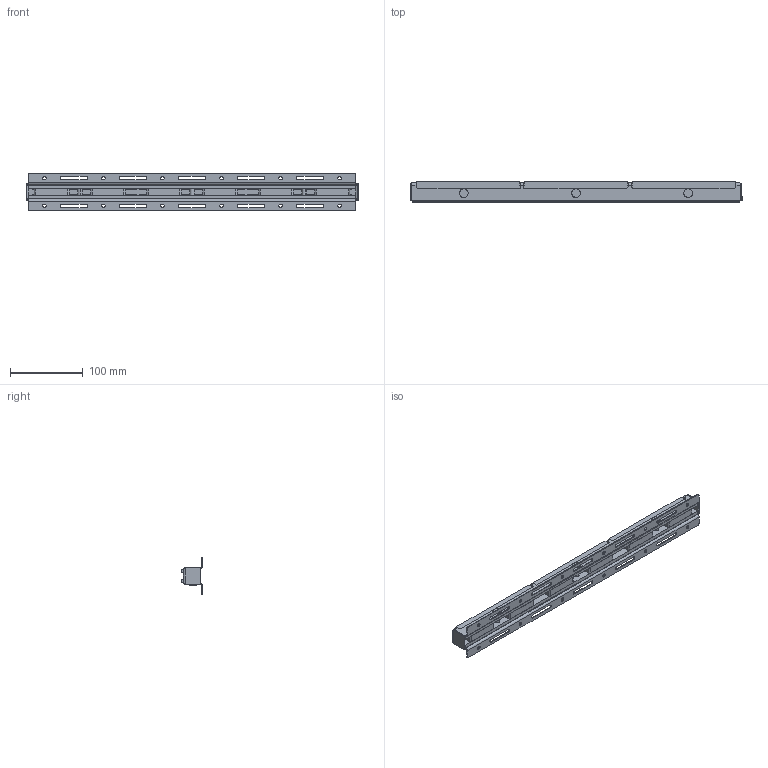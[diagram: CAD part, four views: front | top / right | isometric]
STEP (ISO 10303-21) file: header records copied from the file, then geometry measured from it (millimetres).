
FILE_DESCRIPTION (( 'STEP AP203' ), '1' );
FILE_NAME ('TH1800.STEP', '2018-07-13T14:25:57', ( '' ), ( '' ), 'SwSTEP 2.0', 'SolidWorks 2015', '' );
FILE_SCHEMA (( 'CONFIG_CONTROL_DESIGN' ));
Length unit declared in the file: inch
Products named in the file (1): TH1800
Bounding box: 457.2 x 28.57 x 51.59 mm (x, y, z)
Volume: 211808.1 mm3; surface area: 149415 mm2
Topology: 12 solids, 12 shells, 420 faces, 1044 edges, 633 vertices
Faces by surface type: plane 180, cylinder 148, torus 72, cone 12, bspline 8
Entity records: 12913 total; most frequent: CARTESIAN_POINT 2512, DIRECTION 2266, ORIENTED_EDGE 2076, EDGE_CURVE 1038, AXIS2_PLACEMENT_3D 843, VERTEX_POINT 633, VECTOR 580, LINE 580
